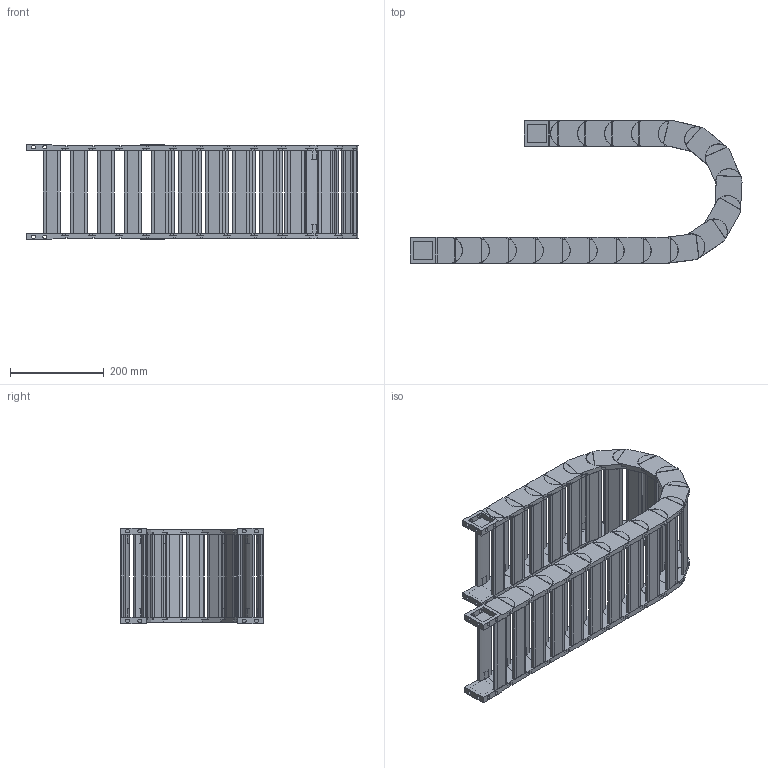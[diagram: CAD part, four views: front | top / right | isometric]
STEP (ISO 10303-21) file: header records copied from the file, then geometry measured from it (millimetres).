
FILE_DESCRIPTION((''),'2;1');
FILE_NAME('HD35-R125-ZPT_ASM','2022-06-17T14:43:47',('admin'),(''),'CREO PARAMETRIC BY PTC INC, 2021164','CREO PARAMETRIC BY PTC INC, 2021164','');
FILE_SCHEMA(('CONFIG_CONTROL_DESIGN','GEOMETRIC_VALIDATION_PROPERTIES_MIM'));
Length unit declared in the file: millimetre
Products named in the file (6): HD35; 35-600001; HD35_ASM; 35-TL_11; 35-WL; HD35-R125-ZPT_ASM
Assembly tree (25 placements, depth 3):
  HD35-R125-ZPT_ASM
    HD35_ASM  x19
      HD35
      35-600001
    35-TL_11
    35-WL
    35-600001  x2
Bounding box: 707.96 x 304.27 x 203.4 mm (x, y, z)
Volume: 3856630.1 mm3; surface area: 1309860.2 mm2
Topology: 84 solids, 84 shells, 1570 faces, 4178 edges, 2864 vertices
Faces by surface type: plane 1068, cylinder 502
Entity records: 9419 total; most frequent: DIRECTION 1424, CARTESIAN_POINT 1414, ORIENTED_EDGE 1300, EDGE_CURVE 650, AXIS2_PLACEMENT_3D 507, VERTEX_POINT 440, VECTOR 410, LINE 410
